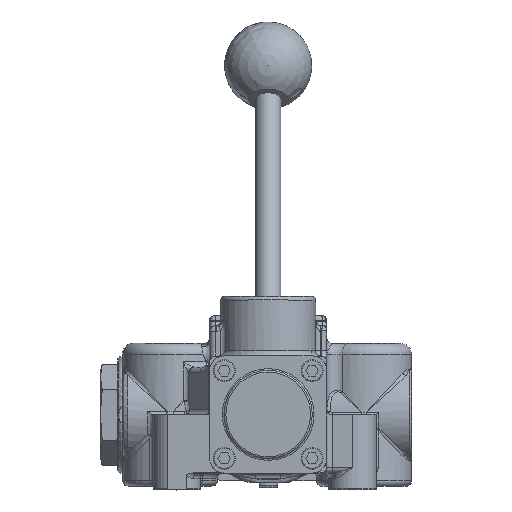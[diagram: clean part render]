
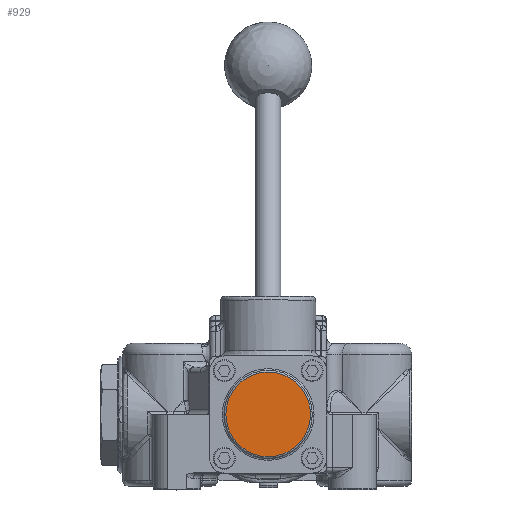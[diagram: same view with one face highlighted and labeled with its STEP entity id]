
A CAD part, top view. The second image highlights one B-rep face of the part: STEP entity #929.
In plain terms, the highlighted planar face has unit normal (0, 0, 1).
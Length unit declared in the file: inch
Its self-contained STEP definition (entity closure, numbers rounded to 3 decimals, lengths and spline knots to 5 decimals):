
#878=CARTESIAN_POINT('',(0.723,0.,7.67));
#879=VERTEX_POINT('',#878);
#880=CARTESIAN_POINT('',(0.0,0.0,7.67));
#881=DIRECTION('',(0.0,0.0,-1.0));
#882=DIRECTION('',(-1.0,0.,0.0));
#883=AXIS2_PLACEMENT_3D('',#880,#881,#882);
#884=CIRCLE('',#883,0.723);
#885=EDGE_CURVE('',#879,#879,#884,.T.);
#921=CARTESIAN_POINT('',(0.0,0.0,7.67));
#922=DIRECTION('',(0.0,0.0,-1.0));
#923=DIRECTION('',(-1.0,0.0,0.0));
#924=AXIS2_PLACEMENT_3D('',#921,#922,#923);
#925=PLANE('',#924);
#926=ORIENTED_EDGE('',*,*,#885,.F.);
#927=EDGE_LOOP('',(#926));
#928=FACE_OUTER_BOUND('',#927,.T.);
#929=ADVANCED_FACE('',(#928),#925,.F.);
